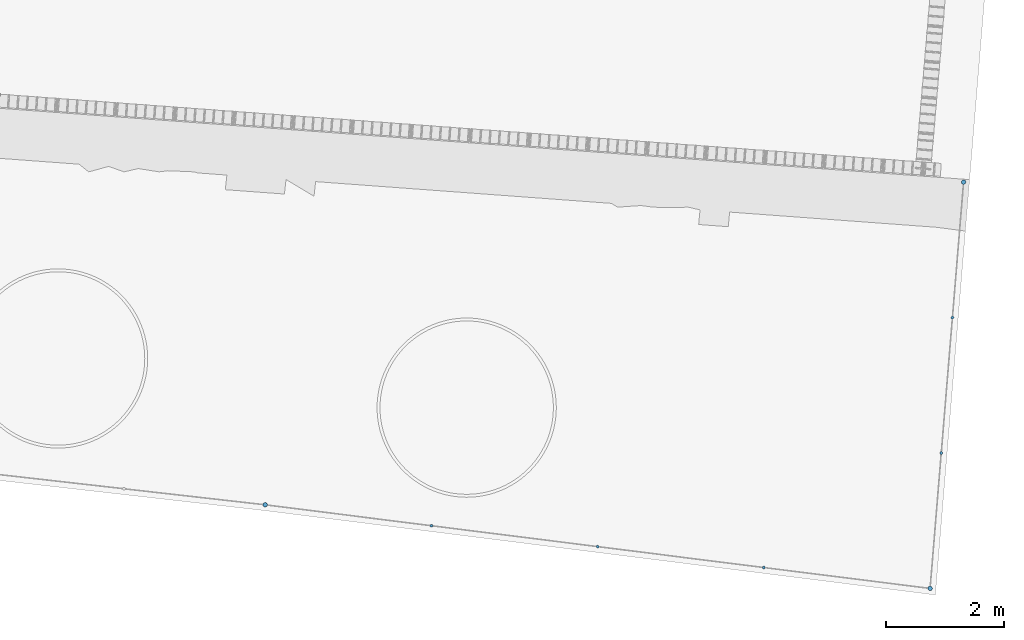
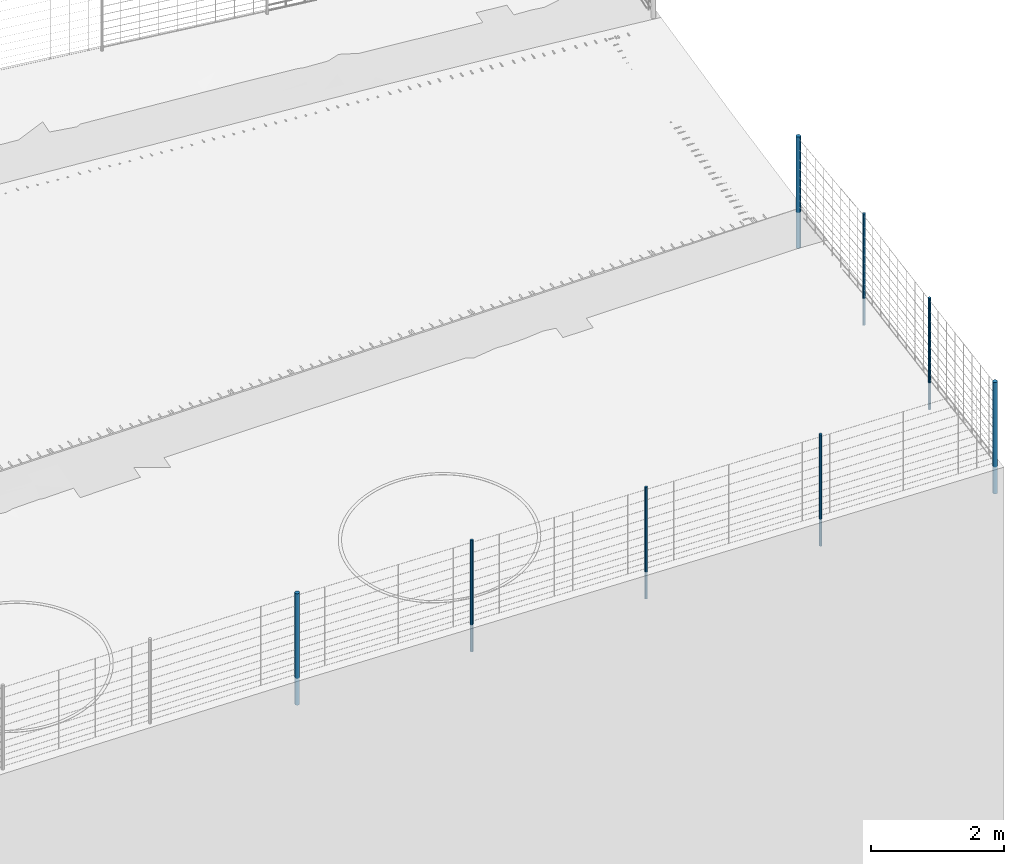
# Not in any storey, part 11 of 72: 8 members.
"""IFC4 model written with IfcOpenShell, lengths in metres."""

from ifc_helpers import new_model, si_unit, direction, frame, origin_with_axes, place, context, subcontext, project, spatial, circle, extrude, material, material_profile, profile_set, profile_usage, type_object, element, save


model = new_model("IFC4")

# Units and contexts
model_context = context("Model", 3, precision=1e-05, world=origin_with_axes(), true_north=direction((0.0, 1.0)))
body_context = subcontext(model_context, "Body", "Model", "MODEL_VIEW")
ifc_project = project(units=[si_unit("AREAUNIT", "SQUARE_METRE"), si_unit("VOLUMEUNIT", "CUBIC_METRE"), si_unit("LENGTHUNIT", "METRE")], contexts=[model_context])

# Site
site_placement = place(None, origin_with_axes())
site = spatial("IfcSite", under=ifc_project, at=site_placement, Name="Lares · Rua das Mercês · artigo 4771")

# Members
ifc_material = material(Name="Aço galvanizado / Stahl verzinkt", Category="steel")
ifc_material_profile_1 = material_profile(ifc_material, circle(Radius=0.038))
ifc_profile_set_1 = profile_set([ifc_material_profile_1], Name="D0.076")
ifc_profile_usage_1 = profile_usage(ifc_profile_set_1)
member_type_1 = type_object("IfcMemberType", Name="D0.076 / galvanized", PredefinedType="NOTDEFINED", material=ifc_profile_set_1)
member_1_placement = place(site_placement, frame((83.1781919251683, 0.465947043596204, 15.474139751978), z_axis=(0.0, 0.0, 1.0), x_axis=(1.0, -1.03767253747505e-17, 0.0)))
element("IfcMember", 1, at=member_1_placement, inside=site, type_object=member_type_1, material=ifc_profile_usage_1, Name="Vedação · poste de canto/topo", PredefinedType="POST", context=body_context, shape_type="SweptSolid", body=[
    extrude(circle(Radius=0.038), origin_with_axes(), (0.0, 0.0, 1.0), 2.05),
])
ifc_profile_usage_2 = profile_usage(ifc_profile_set_1)
member_2_placement = place(site_placement, frame((82.6084121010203, -6.44725451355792, 15.3537529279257), z_axis=(0.0, 0.0, 1.0), x_axis=(1.0, -1.03767253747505e-17, 0.0)))
element("IfcMember", 2, at=member_2_placement, inside=site, type_object=member_type_1, material=ifc_profile_usage_2, Name="Vedação · poste de canto/topo", PredefinedType="POST", context=body_context, shape_type="SweptSolid", body=[
    extrude(circle(Radius=0.038), origin_with_axes(), (0.0, 0.0, 1.0), 2.05),
])
ifc_profile_usage_3 = profile_usage(ifc_profile_set_1)
member_3_placement = place(site_placement, frame((71.2950891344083, -5.02420748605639, 14.566837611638), z_axis=(0.0, 0.0, 1.0), x_axis=(1.0, -1.03767253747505e-17, 0.0)))
element("IfcMember", 3, at=member_3_placement, inside=site, type_object=member_type_1, material=ifc_profile_usage_3, Name="Vedação · poste de canto/topo", PredefinedType="POST", context=body_context, shape_type="SweptSolid", body=[
    extrude(circle(Radius=0.038), origin_with_axes(), (0.0, 0.0, 1.0), 2.05),
])
ifc_material_profile_2 = material_profile(ifc_material, circle(Radius=0.024))
ifc_profile_set_2 = profile_set([ifc_material_profile_2], Name="D0.048")
ifc_profile_usage_4 = profile_usage(ifc_profile_set_2)
member_type_2 = type_object("IfcMemberType", Name="D0.048 / galvanized", PredefinedType="NOTDEFINED", material=ifc_profile_set_2)
member_4_placement = place(site_placement, frame((82.988265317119, -1.83845347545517, 15.5125741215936), z_axis=(0.0, 0.0, 1.0), x_axis=(1.0, -1.03767253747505e-17, 0.0)))
element("IfcMember", 4, at=member_4_placement, inside=site, type_object=member_type_2, material=ifc_profile_usage_4, Name="Vedação · poste intermédio", PredefinedType="POST", context=body_context, shape_type="SweptSolid", body=[
    extrude(circle(Radius=0.024), origin_with_axes(), (0.0, 0.0, 1.0), 2.05),
])
ifc_profile_usage_5 = profile_usage(ifc_profile_set_2)
member_5_placement = place(site_placement, frame((82.7983387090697, -4.14285399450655, 15.4251620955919), z_axis=(0.0, 0.0, 1.0), x_axis=(1.0, -1.03767253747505e-17, 0.0)))
element("IfcMember", 5, at=member_5_placement, inside=site, type_object=member_type_2, material=ifc_profile_usage_5, Name="Vedação · poste intermédio", PredefinedType="POST", context=body_context, shape_type="SweptSolid", body=[
    extrude(circle(Radius=0.024), origin_with_axes(), (0.0, 0.0, 1.0), 2.05),
])
ifc_profile_usage_6 = profile_usage(ifc_profile_set_2)
member_6_placement = place(site_placement, frame((79.7800813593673, -6.09149275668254, 15.1561515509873), z_axis=(0.0, 0.0, 1.0), x_axis=(1.0, -1.03767253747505e-17, 0.0)))
element("IfcMember", 6, at=member_6_placement, inside=site, type_object=member_type_2, material=ifc_profile_usage_6, Name="Vedação · poste intermédio", PredefinedType="POST", context=body_context, shape_type="SweptSolid", body=[
    extrude(circle(Radius=0.024), origin_with_axes(), (0.0, 0.0, 1.0), 2.05),
])
ifc_profile_usage_7 = profile_usage(ifc_profile_set_2)
member_7_placement = place(site_placement, frame((76.9517506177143, -5.73573099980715, 14.958550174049), z_axis=(0.0, 0.0, 1.0), x_axis=(1.0, -1.03767253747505e-17, 0.0)))
element("IfcMember", 7, at=member_7_placement, inside=site, type_object=member_type_2, material=ifc_profile_usage_7, Name="Vedação · poste intermédio", PredefinedType="POST", context=body_context, shape_type="SweptSolid", body=[
    extrude(circle(Radius=0.024), origin_with_axes(), (0.0, 0.0, 1.0), 2.05),
])
ifc_profile_usage_8 = profile_usage(ifc_profile_set_2)
member_8_placement = place(site_placement, frame((74.1234198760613, -5.37996924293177, 14.7609487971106), z_axis=(0.0, 0.0, 1.0), x_axis=(1.0, -1.03767253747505e-17, 0.0)))
element("IfcMember", 8, at=member_8_placement, inside=site, type_object=member_type_2, material=ifc_profile_usage_8, Name="Vedação · poste intermédio", PredefinedType="POST", context=body_context, shape_type="SweptSolid", body=[
    extrude(circle(Radius=0.024), origin_with_axes(), (0.0, 0.0, 1.0), 2.05),
])

save(model, "model.ifc")
